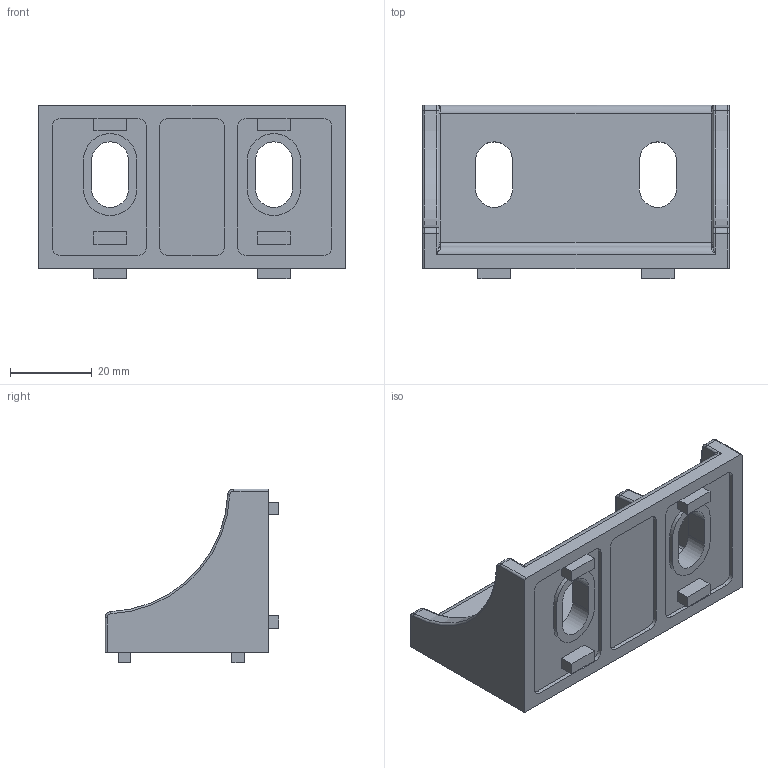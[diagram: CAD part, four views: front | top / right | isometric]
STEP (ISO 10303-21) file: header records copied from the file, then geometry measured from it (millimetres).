
FILE_DESCRIPTION (( 'STEP AP203' ), '1' );
FILE_NAME ('DCB4075-8.STEP', '2018-09-12T07:19:21', ( '' ), ( '' ), 'SwSTEP 2.0', 'SolidWorks 2012', '' );
FILE_SCHEMA (( 'CONFIG_CONTROL_DESIGN' ));
Length unit declared in the file: millimetre
Products named in the file (1): DCB4075-8
Bounding box: 75 x 42.5 x 42.5 mm (x, y, z)
Volume: 29150 mm3; surface area: 15724.5 mm2
Topology: 1 solids, 1 shells, 193 faces, 495 edges, 314 vertices
Faces by surface type: plane 104, cylinder 67, torus 18, bspline 4
Entity records: 6054 total; most frequent: CARTESIAN_POINT 1187, DIRECTION 1023, ORIENTED_EDGE 982, EDGE_CURVE 491, AXIS2_PLACEMENT_3D 350, VECTOR 323, LINE 323, VERTEX_POINT 314
